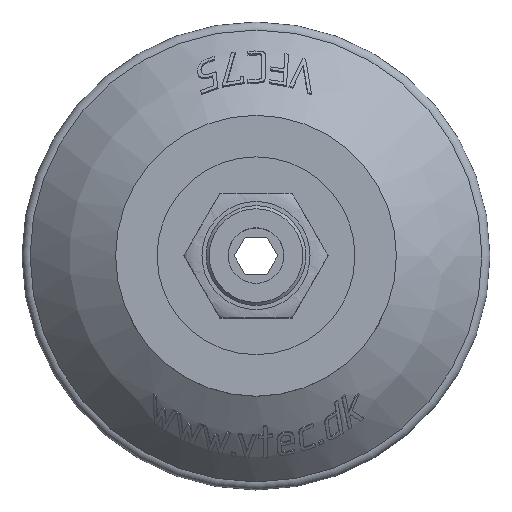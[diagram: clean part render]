
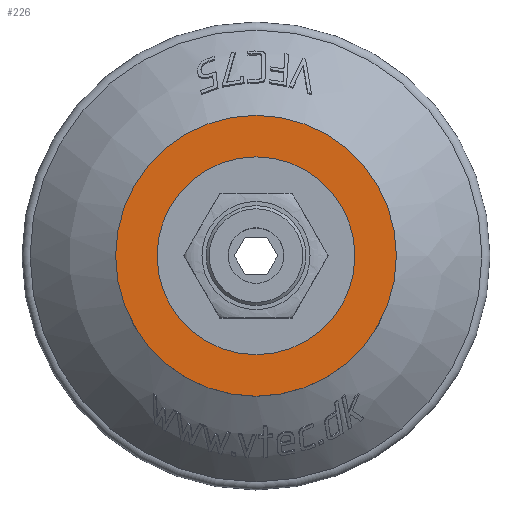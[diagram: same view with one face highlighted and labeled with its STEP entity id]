
A CAD part, top view. The second image highlights one B-rep face of the part: STEP entity #226.
In plain terms, the highlighted planar face has unit normal (0, 0, 1).
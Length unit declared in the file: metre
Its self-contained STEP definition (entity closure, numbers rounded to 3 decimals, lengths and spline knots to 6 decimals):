
#226 = ADVANCED_FACE( '', ( #558, #559 ), #560, .T. );
#558 = FACE_OUTER_BOUND( '', #2473, .T. );
#559 = FACE_BOUND( '', #2474, .T. );
#560 = PLANE( '', #2475 );
#2473 = EDGE_LOOP( '', ( #6135 ) );
#2474 = EDGE_LOOP( '', ( #6136 ) );
#2475 = AXIS2_PLACEMENT_3D( '', #6137, #6138, #6139 );
#6135 = ORIENTED_EDGE( '', *, *, #7685, .T. );
#6136 = ORIENTED_EDGE( '', *, *, #7684, .F. );
#6137 = CARTESIAN_POINT( '', ( 0.01585, 0., 0. ) );
#6138 = DIRECTION( '', ( 0., 0., 1. ) );
#6139 = DIRECTION( '', ( 1., 0., 0. ) );
#7684 = EDGE_CURVE( '', #8484, #8484, #8485, .T. );
#7685 = EDGE_CURVE( '', #8486, #8486, #8487, .T. );
#8484 = VERTEX_POINT( '', #10607 );
#8485 = CIRCLE( '', #10608, 0.01585 );
#8486 = VERTEX_POINT( '', #10609 );
#8487 = CIRCLE( '', #10610, 0.0225 );
#10607 = CARTESIAN_POINT( '', ( 0.01585, 0., 0. ) );
#10608 = AXIS2_PLACEMENT_3D( '', #13532, #13533, #13534 );
#10609 = CARTESIAN_POINT( '', ( 0.0225, 0., 0. ) );
#10610 = AXIS2_PLACEMENT_3D( '', #13535, #13536, #13537 );
#13532 = CARTESIAN_POINT( '', ( 0., 0., 0. ) );
#13533 = DIRECTION( '', ( 0., 0., 1. ) );
#13534 = DIRECTION( '', ( 1., 0., 0. ) );
#13535 = CARTESIAN_POINT( '', ( 0., 0., 0. ) );
#13536 = DIRECTION( '', ( 0., 0., 1. ) );
#13537 = DIRECTION( '', ( 1., 0., 0. ) );
